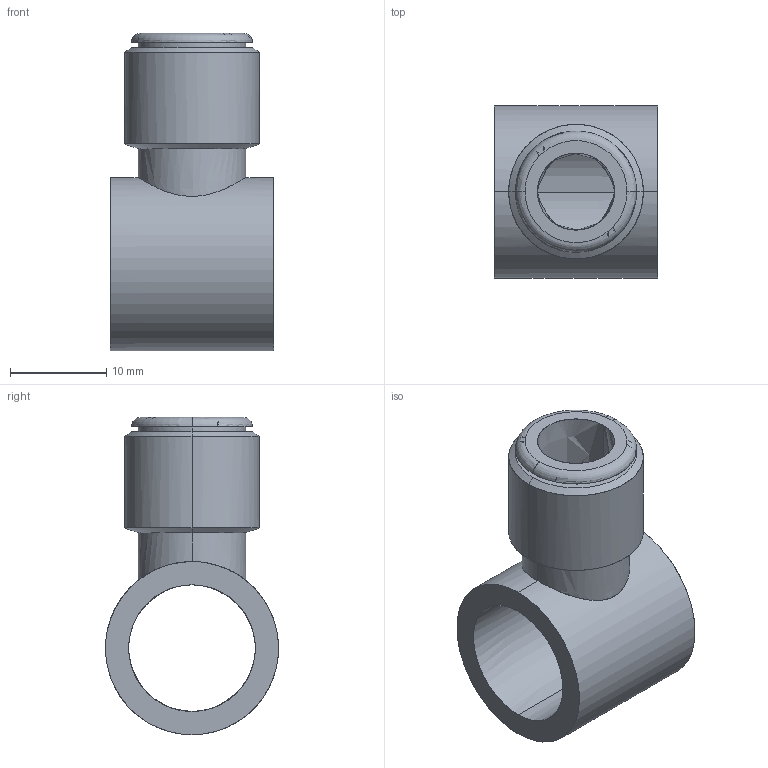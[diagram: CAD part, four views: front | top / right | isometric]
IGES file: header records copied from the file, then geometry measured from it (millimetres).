
Start section: --------------------------------------------------- ROBERT BOSCH GmbH, D-70442 Stuttgart Model-Name:      R412004977 Drawing-Name:    &dwg_name Format:          DIN &format Alle Rechte bei ROBERT BOSCH GmbH, auch fuer den Fall von Schutzrechtsanmeldungen. Jede Verfuegungs- befugnis, wie Kopier- und Weitergabe, bei uns. THIS DRAWING IS THE EXCLUSIVE PROPERTY OF ROBERT BOSCH GMBH. WITHOUT THEIR CONS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
Global section: file name: r412004977.igs; native system: Pro/ENGINEER by Parametric Technology Corporation; preprocessor: 2011490; author: pma1hc; organization: Unknown; date: 20150504.151249; units: millimetre
Bounding box: 17 x 17.97 x 33 mm (x, y, z)
Surface area: 3016.3 mm2 (no closed solid volume)
Topology: 0 solids, 0 shells, 23 faces, 104 edges, 104 vertices
Faces by surface type: revolution 18, bspline 5
